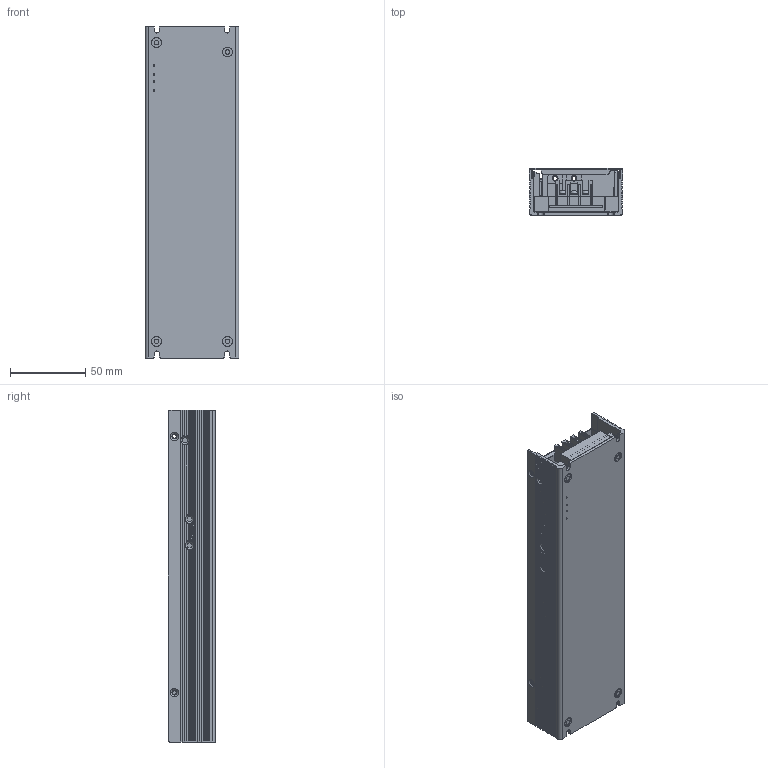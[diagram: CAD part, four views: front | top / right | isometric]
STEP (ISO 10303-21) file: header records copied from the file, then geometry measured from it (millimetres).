
FILE_DESCRIPTION(('Creo Elements/Direct Modeling STEP Export'),'2;1');
FILE_NAME('UHP-350(201111).stp','2020-11-12T15:56:10',(''),(''),'PTC Creo Elements/Direct Modeling STEP processor for AP214 (Solid Model)','PTC Creo Elements/Direct Modeling 19.0 09-May-2014 (C) Parametric Technology GmbH','');
FILE_SCHEMA(('AUTOMOTIVE_DESIGN { 1 0 10303 214 1 1 1 1 }'));
Length unit declared in the file: millimetre
Products named in the file (40): P2-42850_ASM_1_ASM_1.ASM; INPUT_AC_CONNECT-110720_ASM_1_A.ASM; ON_1_PRT_1-874330_ASM_1_ASM_1.ASM; HSN-200A-D-3_1_1.PRT; M3-7L_1_2_1_2.PRT; P1-867960_1_1.PRT; BASE_ASM_1_ASM_2.ASM; 1EE4HTP-200-40A_1.PRT; 00_1-114471.PRT; 00_1-114834.PRT; 1EE4HTP-200-40A_ASM_1.ASM; LLS_1_1.PRT; TB1_1_1.PRT; A1_2_ASM_1_ASM_1.ASM; MOS15_5X10_1_1_1_1_1_1_1_1_1_1_.PRT; A1_1_ASM_1_ASM_1.ASM; 1XX3HSP-300_GAI2015_07_21__PR_1.PRT; 1_2_1_1_1.PRT; P1-231860_1_1.PRT; JS100107_ASM_1_ASM_1.ASM; TTZ_1_1.PRT; PCB_1_1.PRT; LF-48-2COPPER_ASM_ASM_1_ASM_1.ASM; LF-48-2COPPER2_4_PRT_1_1.PRT; LF-48-2COPPER2_3_PRT_1_1.PRT; LF-48-2COPPER2_2_PRT_1_1.PRT; LF-48-2COPPER2_1_PRT_1_1.PRT; LF-48-2COPPER2_ASM_ASM_1_ASM_1.ASM; LF-48-2_______COPPER_ASM_ASM_AS.ASM; LF-48-2_COPPER_ASM_ASM_ASM_1_AS.ASM; ER48___STP_ASM_1_ASM_1.ASM; PIN_1_2_1_1.PRT; P2-181680_1_1.PRT; HS1_ASM_1_ASM_1.ASM; HEL-23_ASM_1_ASM_1_1.PRT; HEL-23_ASM_1_ASM_1.ASM; 22_1_1_1_1.PRT; A1_ASM_1_ASM_2.ASM; tb1; UHP-350
Assembly tree (51 placements, depth 7):
  UHP-350
    1EE4HTP-200-40A_ASM_1.ASM  x2
      00_1-114834.PRT
      00_1-114471.PRT
      1EE4HTP-200-40A_1.PRT
    tb1
    A1_ASM_1_ASM_2.ASM
      22_1_1_1_1.PRT
      MOS15_5X10_1_1_1_1_1_1_1_1_1_1_.PRT  x2
      HEL-23_ASM_1_ASM_1.ASM
        HEL-23_ASM_1_ASM_1_1.PRT
      1XX3HSP-300_GAI2015_07_21__PR_1.PRT  x2
      HS1_ASM_1_ASM_1.ASM
        P2-181680_1_1.PRT
        PIN_1_2_1_1.PRT
      ER48___STP_ASM_1_ASM_1.ASM
        LF-48-2_COPPER_ASM_ASM_ASM_1_AS.ASM
          LF-48-2_______COPPER_ASM_ASM_AS.ASM
            LF-48-2COPPER2_ASM_ASM_1_ASM_1.ASM
              LF-48-2COPPER2_1_PRT_1_1.PRT
              LF-48-2COPPER2_2_PRT_1_1.PRT
              LF-48-2COPPER2_3_PRT_1_1.PRT
              LF-48-2COPPER2_4_PRT_1_1.PRT
            LF-48-2COPPER_ASM_ASM_1_ASM_1.ASM
      PCB_1_1.PRT
      TTZ_1_1.PRT
      JS100107_ASM_1_ASM_1.ASM
        P1-231860_1_1.PRT
        1_2_1_1_1.PRT  x2
      A1_1_ASM_1_ASM_1.ASM
        MOS15_5X10_1_1_1_1_1_1_1_1_1_1_.PRT  x3
      A1_2_ASM_1_ASM_1.ASM
        TB1_1_1.PRT
      LLS_1_1.PRT
    BASE_ASM_1_ASM_2.ASM
      P1-867960_1_1.PRT
      M3-7L_1_2_1_2.PRT  x4
      HSN-200A-D-3_1_1.PRT
    ON_1_PRT_1-874330_ASM_1_ASM_1.ASM
    INPUT_AC_CONNECT-110720_ASM_1_A.ASM
    P2-42850_ASM_1_ASM_1.ASM
Bounding box: 62 x 31.3 x 220 mm (x, y, z)
Volume: 90655 mm3; surface area: 123233.3 mm2
Topology: 35 solids, 35 shells, 2351 faces, 6626 edges, 4381 vertices
Faces by surface type: plane 1916, cylinder 325, torus 64, cone 46
Entity records: 65354 total; most frequent: CARTESIAN_POINT 11449, ORIENTED_EDGE 11216, DIRECTION 9762, EDGE_CURVE 5604, VECTOR 5008, LINE 5008, VERTEX_POINT 3707, EDGE_LOOP 2397
